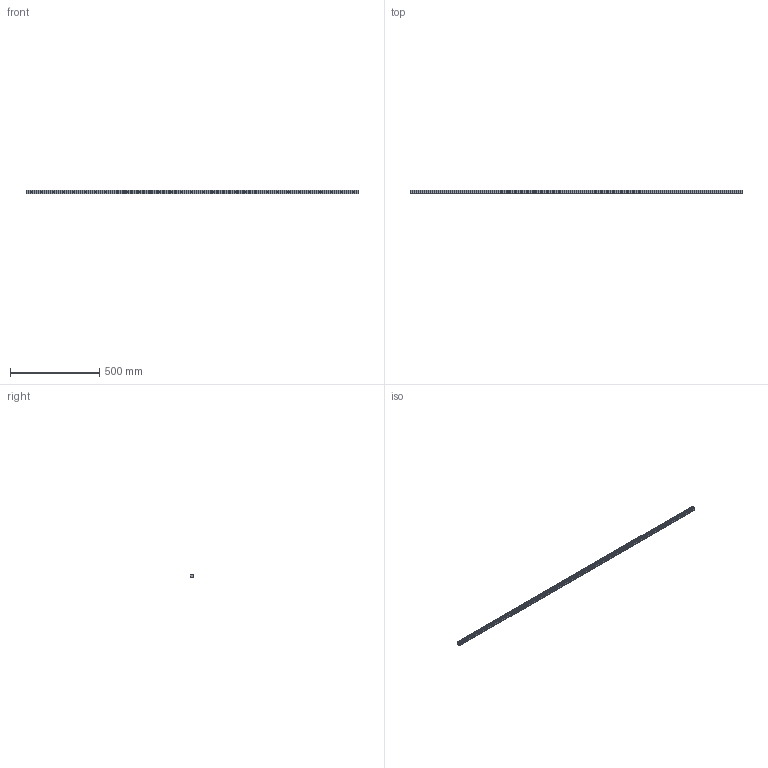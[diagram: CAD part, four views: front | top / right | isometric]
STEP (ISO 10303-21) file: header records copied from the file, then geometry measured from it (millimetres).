
FILE_DESCRIPTION (( 'STEP AP203' ), '1' );
FILE_NAME ('L1018.20R-1860.step', '2023-08-06T09:10:15', ( '' ), ( '' ), 'SwSTEP 2.0', 'SolidWorks 2019', '' );
FILE_SCHEMA (( 'CONFIG_CONTROL_DESIGN' ));
Length unit declared in the file: millimetre
Products named in the file (1): L1018.20R-1860
Bounding box: 1860 x 19.3 x 20 mm (x, y, z)
Volume: 589858.6 mm3; surface area: 157617 mm2
Topology: 1 solids, 1 shells, 308 faces, 701 edges, 395 vertices
Faces by surface type: cylinder 127, cone 124, plane 57
Entity records: 8252 total; most frequent: DIRECTION 1573, CARTESIAN_POINT 1343, ORIENTED_EDGE 1278, EDGE_CURVE 639, AXIS2_PLACEMENT_3D 625, VERTEX_POINT 395, EDGE_LOOP 370, LINE 323
